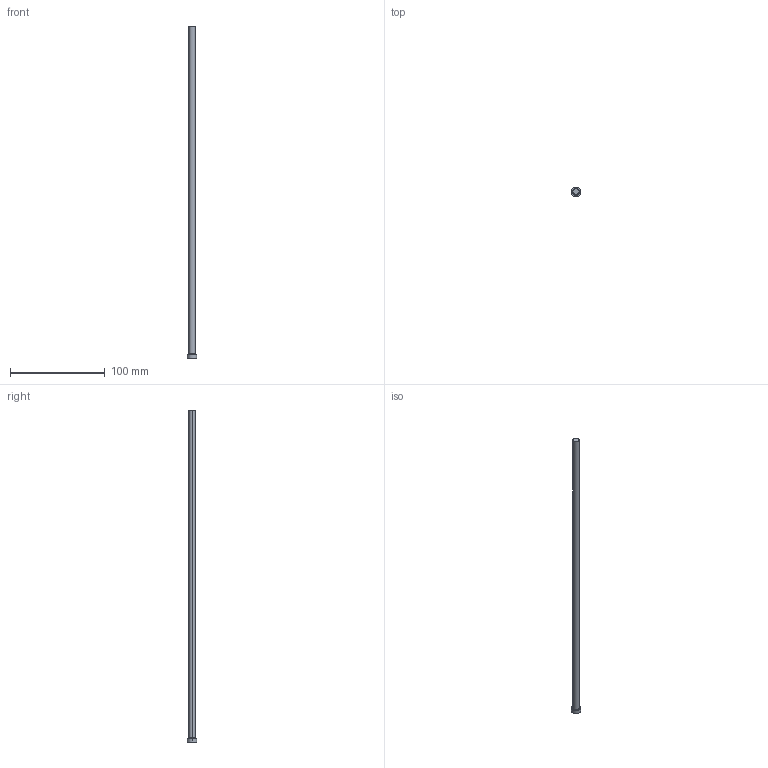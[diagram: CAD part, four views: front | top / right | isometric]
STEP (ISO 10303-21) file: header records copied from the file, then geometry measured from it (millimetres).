
FILE_DESCRIPTION (( 'STEP AP214' ), '1' );
FILE_NAME ('EPHE-B6.5-350.step', '2024-04-11T21:29:44', ( '' ), ( '' ), 'SwSTEP 2.0', 'SolidWorks 2017', '' );
FILE_SCHEMA (( 'AUTOMOTIVE_DESIGN' ));
Length unit declared in the file: millimetre
Products named in the file (1): EPHE-B6.5-350
Bounding box: 10 x 10 x 350 mm (x, y, z)
Volume: 11796.6 mm3; surface area: 7343.9 mm2
Topology: 1 solids, 1 shells, 9 faces, 16 edges, 10 vertices
Faces by surface type: cylinder 4, plane 3, torus 2
Entity records: 260 total; most frequent: DIRECTION 48, CARTESIAN_POINT 36, ORIENTED_EDGE 32, AXIS2_PLACEMENT_3D 22, EDGE_CURVE 16, CIRCLE 12, EDGE_LOOP 10, VERTEX_POINT 10
